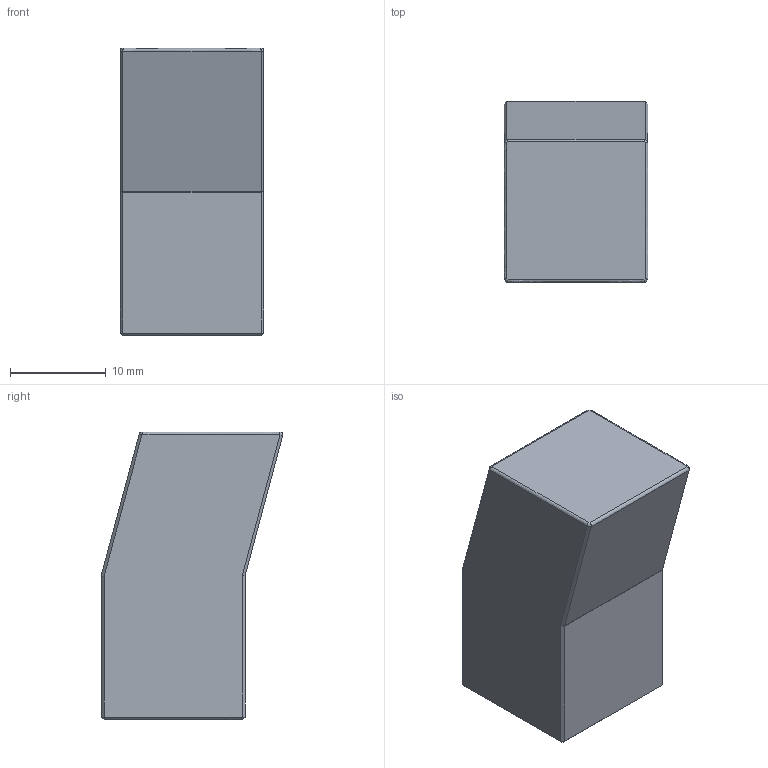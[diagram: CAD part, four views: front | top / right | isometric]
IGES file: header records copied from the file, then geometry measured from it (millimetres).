
Global section: file name: E:\UnigraphicsGraphicData\MISUMI_MOLD-PARTS\NX\3d_ance15_b15_l30_k15_00925_r00.igs; native system: NX V5.0; preprocessor: UGS NX IGES V5.0; author: MISUMI; date: 20101115.182446; units: millimetre
Bounding box: 15 x 18.93 x 30 mm (x, y, z)
Surface area: 2652.8 mm2 (no closed solid volume)
Topology: 0 solids, 0 shells, 37 faces, 207 edges, 206 vertices
Faces by surface type: bspline 37
